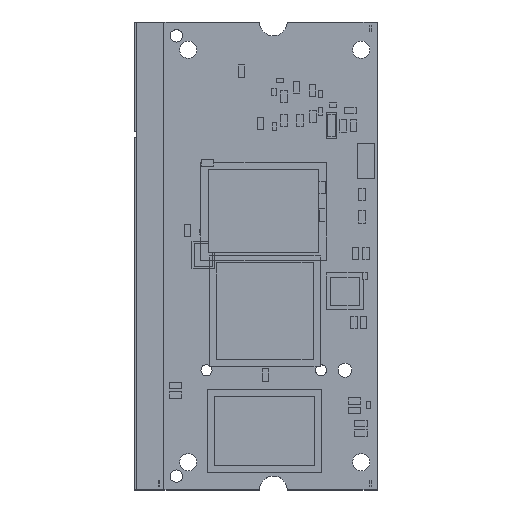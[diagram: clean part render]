
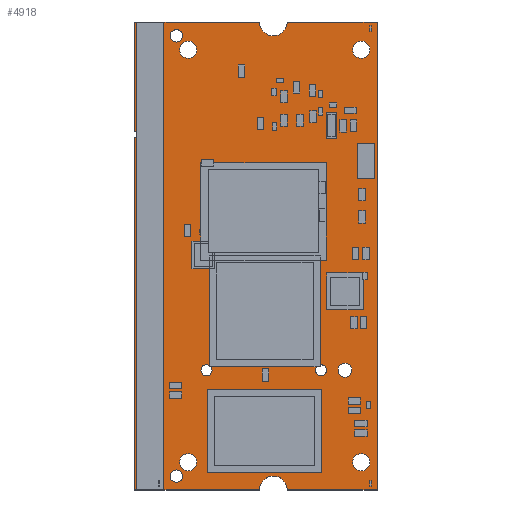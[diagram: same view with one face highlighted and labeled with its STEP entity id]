
A CAD part, top view. The second image highlights one B-rep face of the part: STEP entity #4918.
In plain terms, the highlighted planar face has unit normal (0, 0, 1).
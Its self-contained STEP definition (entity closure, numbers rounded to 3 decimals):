
#4918=ADVANCED_FACE('',(#7876,#7877,#7878,#7879,#7880,#7881,#7882,#7883,#7884,#7885,#7886),#7887,.T.);
#7876=FACE_BOUND('',#10181,.T.);
#7877=FACE_BOUND('',#10182,.T.);
#7878=FACE_BOUND('',#10183,.T.);
#7879=FACE_BOUND('',#10184,.T.);
#7880=FACE_BOUND('',#10185,.T.);
#7881=FACE_BOUND('',#10186,.T.);
#7882=FACE_BOUND('',#10187,.T.);
#7883=FACE_BOUND('',#10188,.T.);
#7884=FACE_BOUND('',#10189,.T.);
#7885=FACE_BOUND('',#10190,.T.);
#7886=FACE_OUTER_BOUND('',#10191,.T.);
#7887=PLANE('',#10192);
#10181=EDGE_LOOP('',(#11474));
#10182=EDGE_LOOP('',(#11475));
#10183=EDGE_LOOP('',(#11476));
#10184=EDGE_LOOP('',(#11477));
#10185=EDGE_LOOP('',(#11478));
#10186=EDGE_LOOP('',(#11479));
#10187=EDGE_LOOP('',(#11480));
#10188=EDGE_LOOP('',(#11481));
#10189=EDGE_LOOP('',(#11482));
#10190=EDGE_LOOP('',(#11483));
#10191=EDGE_LOOP('',(#11484,#11485,#11486,#11487,#11488,#11489,#11490,#11491,#11492,#11493,#11494,#11495));
#10192=AXIS2_PLACEMENT_3D('',#11496,#11497,#11498);
#11474=ORIENTED_EDGE('',*,*,#14502,.T.);
#11475=ORIENTED_EDGE('',*,*,#14505,.T.);
#11476=ORIENTED_EDGE('',*,*,#14508,.T.);
#11477=ORIENTED_EDGE('',*,*,#14511,.T.);
#11478=ORIENTED_EDGE('',*,*,#14514,.T.);
#11479=ORIENTED_EDGE('',*,*,#14517,.T.);
#11480=ORIENTED_EDGE('',*,*,#14520,.T.);
#11481=ORIENTED_EDGE('',*,*,#14523,.T.);
#11482=ORIENTED_EDGE('',*,*,#14526,.T.);
#11483=ORIENTED_EDGE('',*,*,#14529,.T.);
#11484=ORIENTED_EDGE('',*,*,#14532,.T.);
#11485=ORIENTED_EDGE('',*,*,#14533,.T.);
#11486=ORIENTED_EDGE('',*,*,#14534,.T.);
#11487=ORIENTED_EDGE('',*,*,#14535,.T.);
#11488=ORIENTED_EDGE('',*,*,#14536,.T.);
#11489=ORIENTED_EDGE('',*,*,#14537,.T.);
#11490=ORIENTED_EDGE('',*,*,#14538,.T.);
#11491=ORIENTED_EDGE('',*,*,#14539,.T.);
#11492=ORIENTED_EDGE('',*,*,#14540,.T.);
#11493=ORIENTED_EDGE('',*,*,#14541,.T.);
#11494=ORIENTED_EDGE('',*,*,#14542,.T.);
#11495=ORIENTED_EDGE('',*,*,#14543,.T.);
#11496=CARTESIAN_POINT('',(-17.973,34.411,0.897));
#11497=DIRECTION('',(0.,0.,1.0));
#11498=DIRECTION('',(1.0,0.0,0.));
#14502=EDGE_CURVE('',#15666,#15666,#15667,.T.);
#14505=EDGE_CURVE('',#15671,#15671,#15672,.T.);
#14508=EDGE_CURVE('',#15676,#15676,#15677,.T.);
#14511=EDGE_CURVE('',#15681,#15681,#15682,.T.);
#14514=EDGE_CURVE('',#15686,#15686,#15687,.T.);
#14517=EDGE_CURVE('',#15691,#15691,#15692,.T.);
#14520=EDGE_CURVE('',#15696,#15696,#15697,.T.);
#14523=EDGE_CURVE('',#15701,#15701,#15702,.T.);
#14526=EDGE_CURVE('',#15706,#15706,#15707,.T.);
#14529=EDGE_CURVE('',#15711,#15711,#15712,.T.);
#14532=EDGE_CURVE('',#15716,#15717,#15718,.T.);
#14533=EDGE_CURVE('',#15717,#15719,#15720,.T.);
#14534=EDGE_CURVE('',#15719,#15721,#15722,.T.);
#14535=EDGE_CURVE('',#15721,#15723,#15724,.T.);
#14536=EDGE_CURVE('',#15723,#15725,#15726,.T.);
#14537=EDGE_CURVE('',#15725,#15727,#15728,.T.);
#14538=EDGE_CURVE('',#15727,#15729,#15730,.T.);
#14539=EDGE_CURVE('',#15729,#15731,#15732,.T.);
#14540=EDGE_CURVE('',#15731,#15733,#15734,.T.);
#14541=EDGE_CURVE('',#15733,#15735,#15736,.T.);
#14542=EDGE_CURVE('',#15735,#15737,#15738,.T.);
#14543=EDGE_CURVE('',#15737,#15716,#15739,.T.);
#15666=VERTEX_POINT('',#17330);
#15667=CIRCLE('',#17331,0.9);
#15671=VERTEX_POINT('',#17335);
#15672=CIRCLE('',#17336,1.25);
#15676=VERTEX_POINT('',#17340);
#15677=CIRCLE('',#17341,1.25);
#15681=VERTEX_POINT('',#17345);
#15682=CIRCLE('',#17346,1.25);
#15686=VERTEX_POINT('',#17350);
#15687=CIRCLE('',#17351,1.25);
#15691=VERTEX_POINT('',#17355);
#15692=CIRCLE('',#17356,0.9);
#15696=VERTEX_POINT('',#17360);
#15697=CIRCLE('',#17361,1.0);
#15701=VERTEX_POINT('',#17365);
#15702=CIRCLE('',#17366,0.8);
#15706=VERTEX_POINT('',#17370);
#15707=CIRCLE('',#17371,0.8);
#15711=VERTEX_POINT('',#17375);
#15712=CIRCLE('',#17376,1.0);
#15716=VERTEX_POINT('',#17380);
#15717=VERTEX_POINT('',#17381);
#15718=LINE('',#17382,#17383);
#15719=VERTEX_POINT('',#17384);
#15720=CIRCLE('',#17385,2.0);
#15721=VERTEX_POINT('',#17386);
#15722=LINE('',#17387,#17388);
#15723=VERTEX_POINT('',#17389);
#15724=LINE('',#17390,#17391);
#15725=VERTEX_POINT('',#17392);
#15726=LINE('',#17393,#17394);
#15727=VERTEX_POINT('',#17395);
#15728=CIRCLE('',#17396,0.5);
#15729=VERTEX_POINT('',#17397);
#15730=LINE('',#17398,#17399);
#15731=VERTEX_POINT('',#17400);
#15732=LINE('',#17401,#17402);
#15733=VERTEX_POINT('',#17403);
#15734=LINE('',#17404,#17405);
#15735=VERTEX_POINT('',#17406);
#15736=CIRCLE('',#17407,2.0);
#15737=VERTEX_POINT('',#17408);
#15738=LINE('',#17409,#17410);
#15739=LINE('',#17411,#17412);
#17330=CARTESIAN_POINT('',(-29.0,66.5,0.897));
#17331=AXIS2_PLACEMENT_3D('',#19707,#19708,#19709);
#17335=CARTESIAN_POINT('',(-27.3,64.85,0.897));
#17336=AXIS2_PLACEMENT_3D('',#19713,#19714,#19715);
#17340=CARTESIAN_POINT('',(-2.3,64.85,0.897));
#17341=AXIS2_PLACEMENT_3D('',#19719,#19720,#19721);
#17345=CARTESIAN_POINT('',(-2.3,5.25,0.897));
#17346=AXIS2_PLACEMENT_3D('',#19725,#19726,#19727);
#17350=CARTESIAN_POINT('',(-27.3,5.25,0.897));
#17351=AXIS2_PLACEMENT_3D('',#19731,#19732,#19733);
#17355=CARTESIAN_POINT('',(-29.0,2.9,0.897));
#17356=AXIS2_PLACEMENT_3D('',#19737,#19738,#19739);
#17360=CARTESIAN_POINT('',(-24.65,38.3,0.897));
#17361=AXIS2_PLACEMENT_3D('',#19743,#19744,#19745);
#17365=CARTESIAN_POINT('',(-24.65,18.1,0.897));
#17366=AXIS2_PLACEMENT_3D('',#19749,#19750,#19751);
#17370=CARTESIAN_POINT('',(-8.1,18.1,0.897));
#17371=AXIS2_PLACEMENT_3D('',#19755,#19756,#19757);
#17375=CARTESIAN_POINT('',(-4.65,18.3,0.897));
#17376=AXIS2_PLACEMENT_3D('',#19761,#19762,#19763);
#17380=CARTESIAN_POINT('',(0.,67.6,0.897));
#17381=CARTESIAN_POINT('',(-13.0,67.6,0.897));
#17382=CARTESIAN_POINT('',(-6.5,67.6,0.897));
#17383=VECTOR('',#19767,1.0);
#17384=CARTESIAN_POINT('',(-17.0,67.6,0.897));
#17385=AXIS2_PLACEMENT_3D('',#19768,#19769,#19770);
#17386=CARTESIAN_POINT('',(-35.0,67.6,0.897));
#17387=CARTESIAN_POINT('',(-26.0,67.6,0.897));
#17388=VECTOR('',#19771,1.0);
#17389=CARTESIAN_POINT('',(-35.0,51.85,0.897));
#17390=CARTESIAN_POINT('',(-35.0,59.725,0.897));
#17391=VECTOR('',#19772,1.0);
#17392=CARTESIAN_POINT('',(-31.5,51.85,0.897));
#17393=CARTESIAN_POINT('',(-33.25,51.85,0.897));
#17394=VECTOR('',#19773,1.0);
#17395=CARTESIAN_POINT('',(-31.5,50.85,0.897));
#17396=AXIS2_PLACEMENT_3D('',#19774,#19775,#19776);
#17397=CARTESIAN_POINT('',(-35.0,50.85,0.897));
#17398=CARTESIAN_POINT('',(-33.25,50.85,0.897));
#17399=VECTOR('',#19777,1.0);
#17400=CARTESIAN_POINT('',(-35.0,0.,0.897));
#17401=CARTESIAN_POINT('',(-35.0,25.425,0.897));
#17402=VECTOR('',#19778,1.0);
#17403=CARTESIAN_POINT('',(-17.0,0.,0.897));
#17404=CARTESIAN_POINT('',(-26.0,0.,0.897));
#17405=VECTOR('',#19779,1.0);
#17406=CARTESIAN_POINT('',(-13.0,0.,0.897));
#17407=AXIS2_PLACEMENT_3D('',#19780,#19781,#19782);
#17408=CARTESIAN_POINT('',(0.,0.,0.897));
#17409=CARTESIAN_POINT('',(-6.5,0.,0.897));
#17410=VECTOR('',#19783,1.0);
#17411=CARTESIAN_POINT('',(0.,33.8,0.897));
#17412=VECTOR('',#19784,1.0);
#19707=CARTESIAN_POINT('',(-29.0,65.6,0.897));
#19708=DIRECTION('',(0.,0.,-1.0));
#19709=DIRECTION('',(0.,1.0,0.));
#19713=CARTESIAN_POINT('',(-27.3,63.6,0.897));
#19714=DIRECTION('',(0.,0.,-1.0));
#19715=DIRECTION('',(0.,1.0,0.));
#19719=CARTESIAN_POINT('',(-2.3,63.6,0.897));
#19720=DIRECTION('',(0.,0.,-1.0));
#19721=DIRECTION('',(0.,1.0,0.));
#19725=CARTESIAN_POINT('',(-2.3,4.0,0.897));
#19726=DIRECTION('',(0.,0.,-1.0));
#19727=DIRECTION('',(0.,1.0,0.));
#19731=CARTESIAN_POINT('',(-27.3,4.0,0.897));
#19732=DIRECTION('',(0.,0.,-1.0));
#19733=DIRECTION('',(0.,1.0,0.));
#19737=CARTESIAN_POINT('',(-29.0,2.0,0.897));
#19738=DIRECTION('',(0.,0.,-1.0));
#19739=DIRECTION('',(0.,1.0,0.));
#19743=CARTESIAN_POINT('',(-24.65,37.3,0.897));
#19744=DIRECTION('',(0.,0.,-1.0));
#19745=DIRECTION('',(0.,1.0,0.));
#19749=CARTESIAN_POINT('',(-24.65,17.3,0.897));
#19750=DIRECTION('',(0.,0.,-1.0));
#19751=DIRECTION('',(0.,1.0,0.));
#19755=CARTESIAN_POINT('',(-8.1,17.3,0.897));
#19756=DIRECTION('',(0.,0.,-1.0));
#19757=DIRECTION('',(0.,1.0,0.));
#19761=CARTESIAN_POINT('',(-4.65,17.3,0.897));
#19762=DIRECTION('',(0.,0.,-1.0));
#19763=DIRECTION('',(0.,1.0,0.));
#19767=DIRECTION('',(-1.0,0.0,0.0));
#19768=CARTESIAN_POINT('',(-15.0,67.6,0.897));
#19769=DIRECTION('',(0.0,0.0,-1.0));
#19770=DIRECTION('',(1.0,0.0,0.0));
#19771=DIRECTION('',(-1.0,0.0,0.0));
#19772=DIRECTION('',(0.0,-1.0,0.0));
#19773=DIRECTION('',(1.0,0.0,0.0));
#19774=CARTESIAN_POINT('',(-31.5,51.35,0.897));
#19775=DIRECTION('',(0.0,0.0,-1.0));
#19776=DIRECTION('',(0.0,1.0,0.0));
#19777=DIRECTION('',(-1.0,0.0,0.0));
#19778=DIRECTION('',(0.0,-1.0,0.0));
#19779=DIRECTION('',(1.0,0.0,0.0));
#19780=CARTESIAN_POINT('',(-15.0,0.,0.897));
#19781=DIRECTION('',(0.0,0.0,-1.0));
#19782=DIRECTION('',(-1.0,0.0,0.0));
#19783=DIRECTION('',(1.0,0.,0.0));
#19784=DIRECTION('',(0.0,1.0,0.0));
